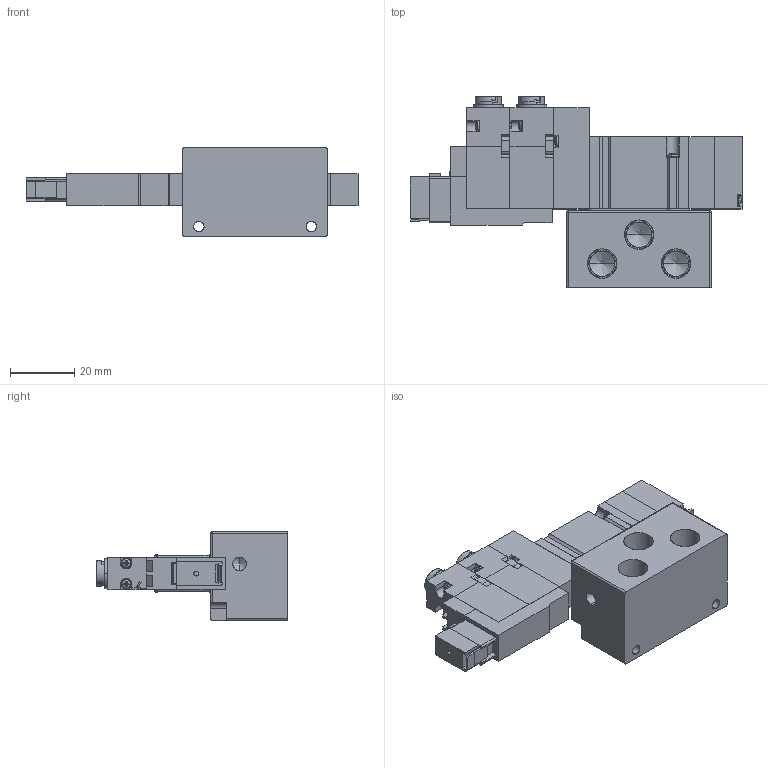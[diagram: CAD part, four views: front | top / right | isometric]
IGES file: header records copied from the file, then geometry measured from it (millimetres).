
Start section: SolidWorks IGES file using analytic representation for surfaces
Global section: file name: D:\Custom\3D繪製\ADEX\A05G\A05GD35-#-#-#-E.IGS,1; native system: 5HSolidWorks 2014; preprocessor: SolidWorks 2014; author: Chieh_Lu; date: 150809.151640; units: millimetre
Bounding box: 103.3 x 59.6 x 27.5 mm (x, y, z)
Surface area: 24270.5 mm2 (no closed solid volume)
Topology: 0 solids, 0 shells, 1107 faces, 9110 edges, 9074 vertices
Faces by surface type: bspline 763, revolution 344
